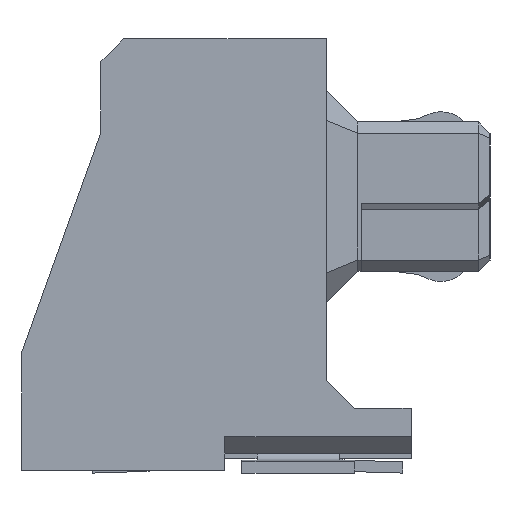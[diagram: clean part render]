
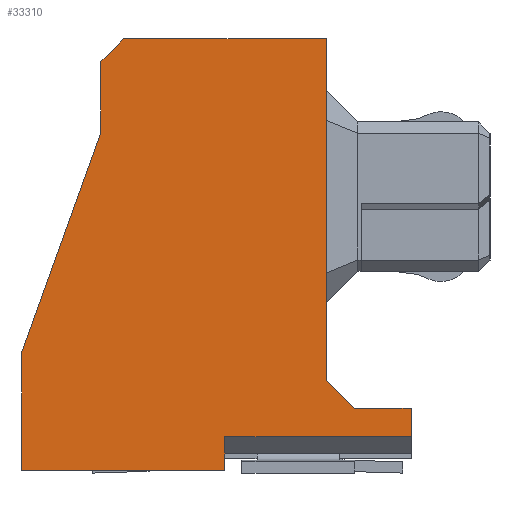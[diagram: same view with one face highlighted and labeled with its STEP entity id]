
A CAD part, left-side view. The second image highlights one B-rep face of the part: STEP entity #33310.
In plain terms, the highlighted planar face has unit normal (-1, 0, 0) as drawn and (0, 0, 1) by its records, which use the part's own axes.
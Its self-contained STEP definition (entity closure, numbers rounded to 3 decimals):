
#16640=CARTESIAN_POINT('',(24.287,-57.914,28.5));
#16650=VERTEX_POINT('',#16640);
#16680=CARTESIAN_POINT('',(45.103,0.,28.5));
#16690=DIRECTION('',(0.338,0.941,0.));
#16700=VECTOR('',#16690,1.);
#16710=LINE('',#16680,#16700);
#16720=CARTESIAN_POINT('',(22.887,-61.809,28.5));
#16730=VERTEX_POINT('',#16720);
#16740=EDGE_CURVE('',#16730,#16650,#16710,.T.);
#18110=CARTESIAN_POINT('',(29.787,-62.809,28.5));
#18120=VERTEX_POINT('',#18110);
#18150=CARTESIAN_POINT('',(0.,-62.809,28.5));
#18160=DIRECTION('',(1.,0.,0.));
#18170=VECTOR('',#18160,1.);
#18180=LINE('',#18150,#18170);
#18190=CARTESIAN_POINT('',(28.787,-62.809,28.5));
#18200=VERTEX_POINT('',#18190);
#18210=EDGE_CURVE('',#18200,#18120,#18180,.T.);
#26250=CARTESIAN_POINT('',(24.287,-56.659,28.5));
#26260=VERTEX_POINT('',#26250);
#26290=CARTESIAN_POINT('',(24.287,0.,28.5));
#26300=DIRECTION('',(0.,1.,0.));
#26310=VECTOR('',#26300,1.);
#26320=LINE('',#26290,#26310);
#26330=EDGE_CURVE('',#16650,#26260,#26320,.T.);
#28010=CARTESIAN_POINT('',(26.487,0.,28.5));
#28020=DIRECTION('',(0.,-1.,0.));
#28030=VECTOR('',#28020,1.);
#28040=LINE('',#28010,#28030);
#28050=CARTESIAN_POINT('',(26.487,-63.314,28.5));
#28060=VERTEX_POINT('',#28050);
#28070=CARTESIAN_POINT('',(26.487,-63.909,28.5));
#28080=VERTEX_POINT('',#28070);
#28090=EDGE_CURVE('',#28060,#28080,#28040,.T.);
#32620=CARTESIAN_POINT('',(0.,0.,28.5));
#32630=DIRECTION('',(0.,0.,1.));
#32640=DIRECTION('',(1.,0.,0.));
#32650=AXIS2_PLACEMENT_3D('',#32620,#32630,#32640);
#32660=PLANE('',#32650);
#32670=CARTESIAN_POINT('',(22.887,0.,28.5));
#32680=DIRECTION('',(0.,1.,0.));
#32690=VECTOR('',#32680,1.);
#32700=LINE('',#32670,#32690);
#32710=CARTESIAN_POINT('',(22.887,-63.909,28.5));
#32720=VERTEX_POINT('',#32710);
#32730=EDGE_CURVE('',#32720,#16730,#32700,.T.);
#32740=ORIENTED_EDGE('',*,*,#32730,.F.);
#32750=ORIENTED_EDGE('',*,*,#16740,.F.);
#32760=ORIENTED_EDGE('',*,*,#26330,.F.);
#32770=CARTESIAN_POINT('',(80.946,0.,28.5));
#32780=DIRECTION('',(0.707,0.707,0.));
#32790=VECTOR('',#32780,1.);
#32800=LINE('',#32770,#32790);
#32810=CARTESIAN_POINT('',(24.687,-56.259,28.5));
#32820=VERTEX_POINT('',#32810);
#32830=EDGE_CURVE('',#26260,#32820,#32800,.T.);
#32840=ORIENTED_EDGE('',*,*,#32830,.F.);
#32850=CARTESIAN_POINT('',(0.,-56.259,28.5));
#32860=DIRECTION('',(1.,0.,0.));
#32870=VECTOR('',#32860,1.);
#32880=LINE('',#32850,#32870);
#32890=CARTESIAN_POINT('',(28.287,-56.259,28.5));
#32900=VERTEX_POINT('',#32890);
#32910=EDGE_CURVE('',#32820,#32900,#32880,.T.);
#32920=ORIENTED_EDGE('',*,*,#32910,.F.);
#32930=CARTESIAN_POINT('',(28.287,0.,28.5));
#32940=DIRECTION('',(0.,1.,0.));
#32950=VECTOR('',#32940,1.);
#32960=LINE('',#32930,#32950);
#32970=CARTESIAN_POINT('',(28.287,-62.309,28.5));
#32980=VERTEX_POINT('',#32970);
#32990=EDGE_CURVE('',#32980,#32900,#32960,.T.);
#33000=ORIENTED_EDGE('',*,*,#32990,.T.);
#33010=CARTESIAN_POINT('',(0.,-34.023,28.5));
#33020=DIRECTION('',(0.707,-0.707,0.));
#33030=VECTOR('',#33020,1.);
#33040=LINE('',#33010,#33030);
#33050=EDGE_CURVE('',#32980,#18200,#33040,.T.);
#33060=ORIENTED_EDGE('',*,*,#33050,.F.);
#33070=ORIENTED_EDGE('',*,*,#18210,.F.);
#33080=CARTESIAN_POINT('',(29.787,0.,28.5));
#33090=DIRECTION('',(0.,-1.,0.));
#33100=VECTOR('',#33090,1.);
#33110=LINE('',#33080,#33100);
#33120=CARTESIAN_POINT('',(29.787,-63.314,28.5));
#33130=VERTEX_POINT('',#33120);
#33140=EDGE_CURVE('',#18120,#33130,#33110,.T.);
#33150=ORIENTED_EDGE('',*,*,#33140,.F.);
#33160=CARTESIAN_POINT('',(0.,-63.314,28.5));
#33170=DIRECTION('',(1.,0.,0.));
#33180=VECTOR('',#33170,1.);
#33190=LINE('',#33160,#33180);
#33200=EDGE_CURVE('',#28060,#33130,#33190,.T.);
#33210=ORIENTED_EDGE('',*,*,#33200,.T.);
#33220=ORIENTED_EDGE('',*,*,#28090,.F.);
#33230=CARTESIAN_POINT('',(0.,-63.909,28.5));
#33240=DIRECTION('',(1.,0.,-0.));
#33250=VECTOR('',#33240,1.);
#33260=LINE('',#33230,#33250);
#33270=EDGE_CURVE('',#32720,#28080,#33260,.T.);
#33280=ORIENTED_EDGE('',*,*,#33270,.T.);
#33290=EDGE_LOOP('',(#33280,#33220,#33210,#33150,#33070,#33060,#33000,
#32920,#32840,#32760,#32750,#32740));
#33300=FACE_OUTER_BOUND('',#33290,.T.);
#33310=ADVANCED_FACE('',(#33300),#32660,.T.);
